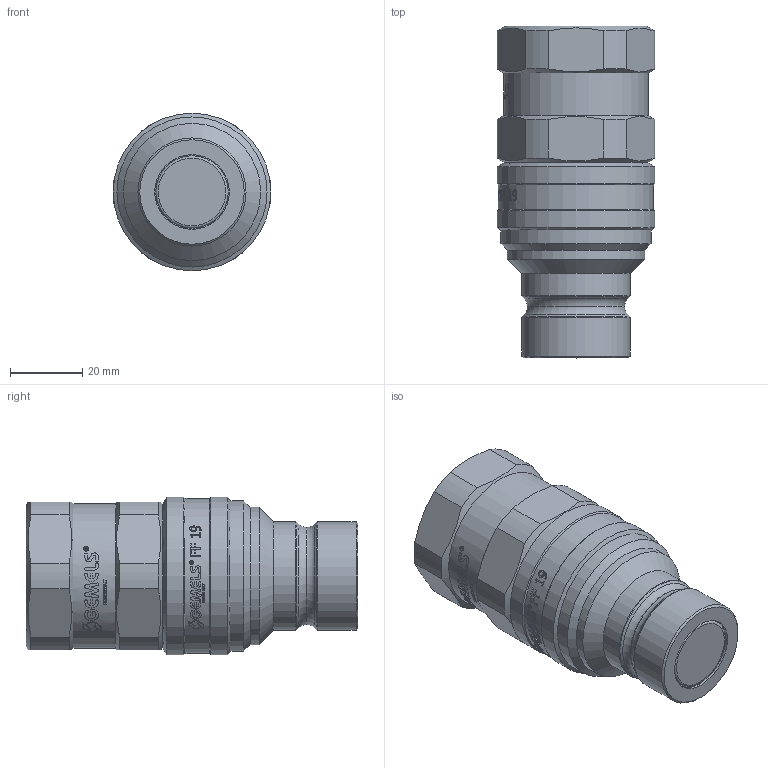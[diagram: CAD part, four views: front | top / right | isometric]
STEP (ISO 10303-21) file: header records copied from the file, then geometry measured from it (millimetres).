
FILE_DESCRIPTION(/* description */ (''),/* implementation_level */ '2;1');
FILE_NAME(/* name */ 'NC05G050000stp.stp',/* time_stamp */ '2026-03-18T09:58:02+01:00',/* author */ ('isabel.merisio'),/* organization */ (''),/* preprocessor_version */ 'ST-DEVELOPER v20',/* originating_system */ 'Autodesk Inventor 2024',/* authorisation */ '');
FILE_SCHEMA (('AUTOMOTIVE_DESIGN { 1 0 10303 214 3 1 1 }'));
Length unit declared in the file: millimetre
Products named in the file (1): Parte6
Bounding box: 43.73 x 92 x 43.7 mm (x, y, z)
Volume: 88986.3 mm3; surface area: 16826 mm2
Topology: 1 solids, 1 shells, 1185 faces, 3334 edges, 2218 vertices
Faces by surface type: bspline 733, plane 343, cylinder 87, cone 17, torus 5
Full cylindrical faces by diameter (mm): 20.7 x1, 23 x1, 26.9 x1, 29.95 x2, 30.291 x1, 31 x1, 38.05 x1, 38.053 x1, 40 x1, 41.6 x1, 43 x1, 43.7 x2
Entity records: 50214 total; most frequent: CARTESIAN_POINT 23096, ORIENTED_EDGE 6668, EDGE_CURVE 3334, DIRECTION 3183, VERTEX_POINT 2218, B_SPLINE_CURVE_WITH_KNOTS 1489, LINE 1357, VECTOR 1357
